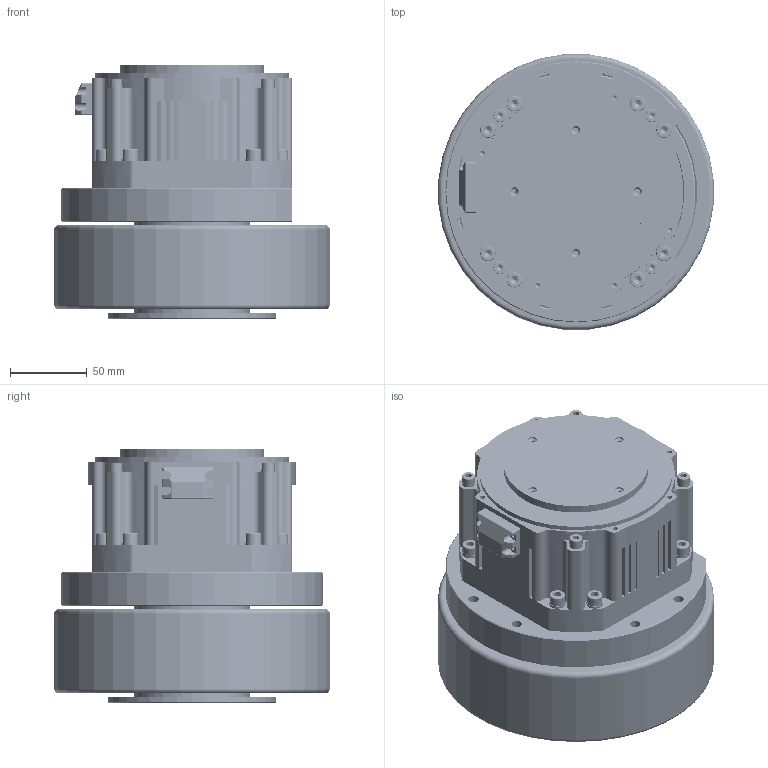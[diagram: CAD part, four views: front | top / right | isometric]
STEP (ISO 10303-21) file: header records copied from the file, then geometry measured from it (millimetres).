
FILE_DESCRIPTION((''),'2;1');
FILE_NAME('1_0KW180MM2405060001_ASM','2024-10-16T16:21:45',('ms15079'),(''),'CREO PARAMETRIC BY PTC INC, 2018100','CREO PARAMETRIC BY PTC INC, 2018100','');
FILE_SCHEMA(('CONFIG_CONTROL_DESIGN'));
Length unit declared in the file: millimetre
Products named in the file (58): _X2_673A58F3_X0_1000W_X2_FF08_2; 130_X2_5B9A5B5094C182AF_X0_51_2; 1500KW130_X2_540E7AEF76D6_X0__1; WASHER_GB_T_9074_26-1988_6_1; AS_1420_-_1973_-_M6_X_25_1; AS_1420_-_1973_-_M5_X_10_1; WASHER_GB_T_9074_26-1988_5_1; AEQ-115C-020-10-22-1__X_E4_X__2; AEQ-115-H55-W180__X_E4_X_BB_1_2; HEXAGON_SOCKET_HEAD_CAP_SCREW_2; AEQ-115C-020-10-22-1-H55-W180_2_ASM; _X2_5B9E4F53_X0_1_1_2; _X2_5B9E4F53_X0_2_1_2; _X2_5B9E4F53_X0_3_1_2; _X2_5B9E4F53_X0_4_1_2; _X2_5B9E4F53_X0_6_1_2; _X2_5B9E4F53_X0_7_1_2; _X2_5B9E4F53_X0_8_1_2; _X2_5B9E4F53_X0_10_1_2; _X2_5B9E4F53_X0_12_1_2; _X2_5B9E4F53_X0_13_1_2; _X2_5B9E4F53_X0_14_1_2; _X2_5B9E4F53_X0_15_1_2; _X2_5B9E4F53_X0_17_1_2; _X2_5B9E4F53_X0_19_1_2; _X2_5B9E4F53_X0_20_1_2; _X2_5B9E4F53_X0_26_1_2; _X2_5B9E4F53_X0_28_1_2; _X2_5B9E4F53_X0_29_1_2; _X2_5B9E4F53_X0_31_1_2; _X2_5B9E4F53_X0_32_1_2; _X2_5B9E4F53_X0_33_1_2; _X2_5B9E4F53_X0_35_1_2; _X2_5B9E4F53_X0_37_1_2; _X2_5B9E4F53_X0_39_1_2; _X2_5B9E4F53_X0_40_1_2; _X2_5B9E4F53_X0_41_1_2; _X2_5B9E4F53_X0_42_1_2; _X2_5B9E4F53_X0_43_1_2; _X2_5B9E4F53_X0_44_1_2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
Assembly tree (84 placements, depth 4):
  1_0KW180MM2405060001_ASM
    1_5KW180MM_X2_9A7152A88F6E75356_ASM
      _X2_673A58F3_X0_1000W_X2_FF08_2
      130_X2_5B9A5B5094C182AF_X0_51_2
      1500KW130_X2_540E7AEF76D6_X0__1
      WASHER_GB_T_9074_26-1988_6_1  x8
      AS_1420_-_1973_-_M6_X_25_1  x8
      AS_1420_-_1973_-_M5_X_10_1  x4
      WASHER_GB_T_9074_26-1988_5_1  x4
      AEQ-115C-020-10-22-1-H55-W180_2_ASM
        AEQ-115C-020-10-22-1__X_E4_X__2
        AEQ-115-H55-W180__X_E4_X_BB_1_2
        HEXAGON_SOCKET_HEAD_CAP_SCREW_2  x8
      AGV3D_-0425_1_2_ASM
        _X2_5B9E4F53_X0_1_1_2
        _X2_5B9E4F53_X0_2_1_2
        _X2_5B9E4F53_X0_3_1_2
        _X2_5B9E4F53_X0_4_1_2
        _X2_5B9E4F53_X0_6_1_2
        _X2_5B9E4F53_X0_7_1_2
        _X2_5B9E4F53_X0_8_1_2
        _X2_5B9E4F53_X0_10_1_2
        _X2_5B9E4F53_X0_12_1_2
        _X2_5B9E4F53_X0_13_1_2
        _X2_5B9E4F53_X0_14_1_2
        _X2_5B9E4F53_X0_15_1_2
        _X2_5B9E4F53_X0_17_1_2
        _X2_5B9E4F53_X0_19_1_2
        _X2_5B9E4F53_X0_20_1_2
        _X2_5B9E4F53_X0_26_1_2
        _X2_5B9E4F53_X0_28_1_2
        _X2_5B9E4F53_X0_29_1_2
        _X2_5B9E4F53_X0_31_1_2
        _X2_5B9E4F53_X0_32_1_2
        _X2_5B9E4F53_X0_33_1_2
        _X2_5B9E4F53_X0_35_1_2
        _X2_5B9E4F53_X0_37_1_2
        _X2_5B9E4F53_X0_39_1_2
        _X2_5B9E4F53_X0_40_1_2
        _X2_5B9E4F53_X0_41_1_2
        _X2_5B9E4F53_X0_42_1_2
        _X2_5B9E4F53_X0_43_1_2
        _X2_5B9E4F53_X0_44_1_2
        _X2_5B9E4F53_X0_47_1_2
        _X2_5B9E4F53_X0_48_1_2
        _X2_5B9E4F53_X0_51_1_2
        _X2_5B9E4F53_X0_54_1_2
        _X2_5B9E4F53_X0_56_1_2
        _X2_5B9E4F53_X0_57_1_2
        _X2_5B9E4F53_X0_58_1_2
        _X2_5B9E4F53_X0_59_1_2
        _X2_5B9E4F53_X0_60_1_2
        _X2_5B9E4F53_X0_64_1_2
        _X2_5B9E4F53_X0_65_1_2
        _X2_5B9E4F53_X0_67_1_2
        _X2_5B9E4F53_X0_68_1_2
      _X2_7F167801566876D6677F_X0_240
      _X2_7EBF5939FF089E235FD75E385_2
Bounding box: 179.31 x 179.31 x 165 mm (x, y, z)
Volume: 2258355 mm3; surface area: 413657.8 mm2
Topology: 80 solids, 81 shells, 4321 faces, 9974 edges, 5880 vertices
Faces by surface type: cone 1571, plane 1300, cylinder 1199, extrusion 158, torus 75, sphere 10, bspline 8
Entity records: 72072 total; most frequent: CARTESIAN_POINT 19172, DIRECTION 10820, ORIENTED_EDGE 10636, EDGE_CURVE 5323, AXIS2_PLACEMENT_3D 3614, VECTOR 3592, LINE 3434, VERTEX_POINT 3419
